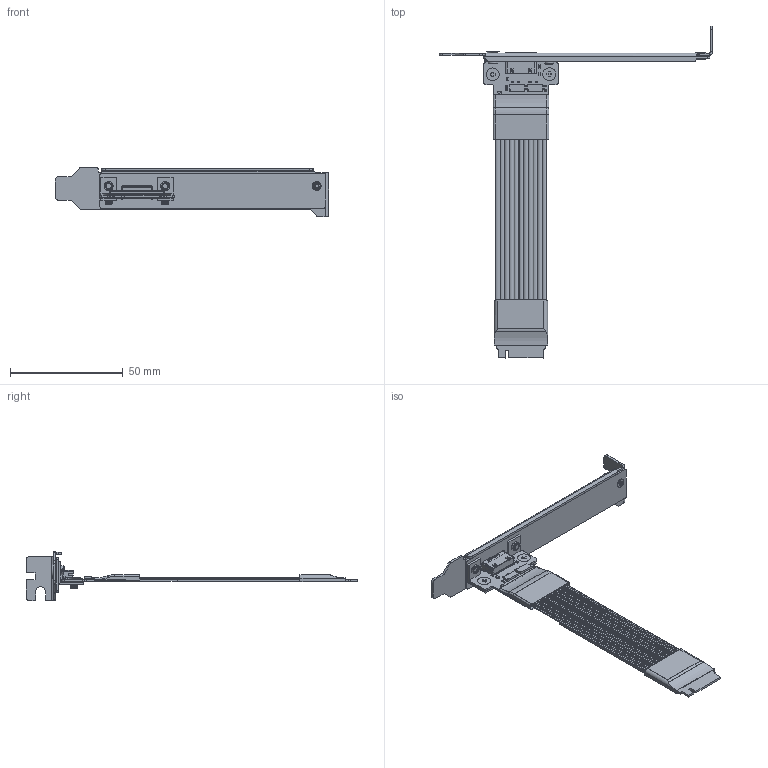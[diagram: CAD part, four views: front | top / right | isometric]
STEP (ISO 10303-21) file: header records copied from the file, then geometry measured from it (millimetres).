
FILE_DESCRIPTION(('Open CASCADE Model'),'2;1');
FILE_NAME('Open CASCADE Shape Model','2025-10-22T09:39:05',('Author'),( 'Open CASCADE'),'Open CASCADE STEP processor 7.5','Open CASCADE 7.5' ,'Unknown');
FILE_SCHEMA(('AUTOMOTIVE_DESIGN { 1 0 10303 214 1 1 1 1 }'));
Length unit declared in the file: millimetre
Products named in the file (301): PCB; Board; Open CASCADE STEP translator 7.5 3.1.1; R1; 0603_RES; Capsule; Encapsulation; TopCover; C14; C0603_060; C13; CN1; OcuLinkĸع; U2; 9392793296; Open CASCADE STEP translator 7.5 4.1; Body; Open CASCADE STEP translator 7.5 4.2.1; ball; U1; R6; R0201 AC0201; R5; R4; R3; R2; D1; User Library-SOD523F; C26; C0201_020; C25; C24; C23; C22; C21; C20; C19; C18; C17; C16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
Assembly tree (443 placements, depth 5):
  PCB
    Board
      Open CASCADE STEP translator 7.5 3.1.1
    R1
      0603_RES
        Capsule
        Encapsulation  x2
        TopCover
    C14
      C0603_060
      C0603_060
      C0603_060
    C13
      C0603_060
      C0603_060
      C0603_060
    CN1
      OcuLinkĸع  x2
      OcuLinkĸع
    U2
      9392793296
        Open CASCADE STEP translator 7.5 4.1
        Body
          Open CASCADE STEP translator 7.5 4.2.1
        ball  x49
    U1
      9392793296
        Open CASCADE STEP translator 7.5 4.1
        Body
          Open CASCADE STEP translator 7.5 4.2.1
        ball  x49
    R6
      R0201 AC0201
      R0201 AC0201
      R0201 AC0201
      R0201 AC0201
    R5
      R0201 AC0201
      R0201 AC0201
      R0201 AC0201
      R0201 AC0201
    R4
      R0201 AC0201
      R0201 AC0201
      R0201 AC0201
      R0201 AC0201
    R3
      R0201 AC0201
      R0201 AC0201
      R0201 AC0201
      R0201 AC0201
    R2
      R0201 AC0201
      R0201 AC0201
      R0201 AC0201
      R0201 AC0201
    D1
      User Library-SOD523F
    C26
      C0201_020
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Bounding box: 121 x 146.95 x 21.7 mm (x, y, z)
Volume: 7905.1 mm3; surface area: 38083.7 mm2
Topology: 450 solids, 452 shells, 7757 faces, 18719 edges, 11610 vertices
Faces by surface type: plane 5367, cylinder 1827, sphere 306, bspline 181, cone 43, extrusion 22, torus 11
Full cylindrical faces by diameter (mm): 0.2 x132, 0.254 x176, 0.362 x2, 0.63 x44, 1 x2, 2.356 x8, 2.927 x16, 3 x1, 3.2 x5, 3.3 x3, 4 x5, 4.5 x2
Entity records: 189957 total; most frequent: CARTESIAN_POINT 37524, DIRECTION 22303, ORIENTED_EDGE 22053, EDGE_CURVE 11027, VECTOR 8245, LINE 8223, AXIS2_PLACEMENT_3D 7029, VERTEX_POINT 6964
